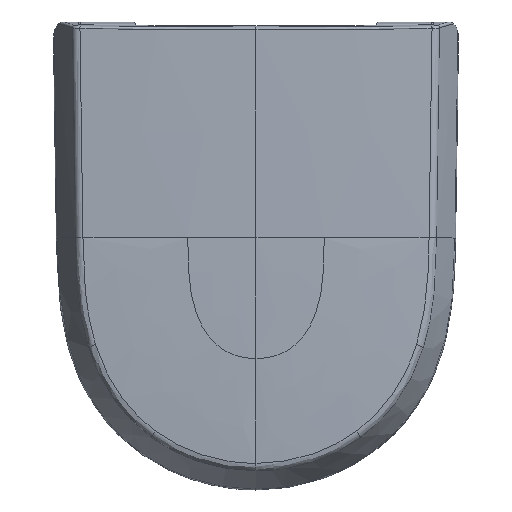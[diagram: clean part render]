
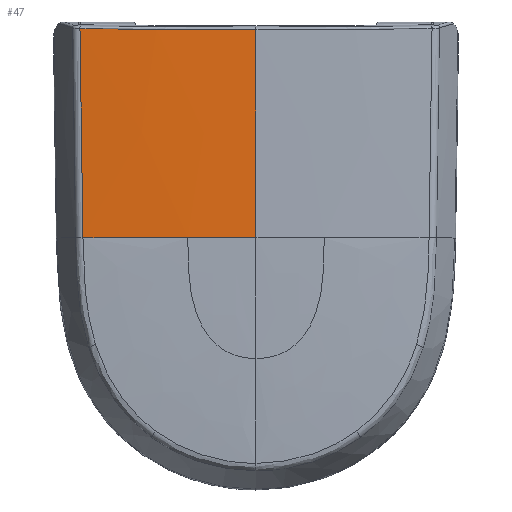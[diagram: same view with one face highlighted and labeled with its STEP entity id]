
A CAD part, top view. The second image highlights one B-rep face of the part: STEP entity #47.
In plain terms, the highlighted free-form (B-spline) face has degree [3, 2] with [4, 3] control points.
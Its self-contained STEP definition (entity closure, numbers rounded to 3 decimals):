
#47=ADVANCED_FACE('',(#577),#7690,.T.);
#577=FACE_OUTER_BOUND('',#1107,.T.);
#1107=EDGE_LOOP('',(#1746,#1747,#1748,#1749,#1750));
#1746=ORIENTED_EDGE('',*,*,#4302,.T.);
#1747=ORIENTED_EDGE('',*,*,#4309,.T.);
#1748=ORIENTED_EDGE('',*,*,#4328,.F.);
#1749=ORIENTED_EDGE('',*,*,#4327,.F.);
#1750=ORIENTED_EDGE('',*,*,#4292,.T.);
#4292=EDGE_CURVE('',#6910,#6911,#5669,.T.);
#4302=EDGE_CURVE('',#6911,#6917,#5679,.T.);
#4309=EDGE_CURVE('',#6917,#6921,#5686,.T.);
#4327=EDGE_CURVE('',#6910,#6932,#5704,.T.);
#4328=EDGE_CURVE('',#6932,#6921,#5705,.T.);
#5669=B_SPLINE_CURVE_WITH_KNOTS('',3,(#12536,#12537,#12538,#12539),
 .UNSPECIFIED.,.F.,.F.,(4,4),(-19.008,0.),
 .UNSPECIFIED.);
#5679=B_SPLINE_CURVE_WITH_KNOTS('',3,(#12600,#12601,#12602,#12603),
 .UNSPECIFIED.,.F.,.F.,(4,4),(-0.557,0.),.UNSPECIFIED.);
#5686=B_SPLINE_CURVE_WITH_KNOTS('',3,(#12653,#12654,#12655,#12656),
 .UNSPECIFIED.,.F.,.F.,(4,4),(-0.414,0.),.UNSPECIFIED.);
#5704=B_SPLINE_CURVE_WITH_KNOTS('',6,(#12753,#12754,#12755,#12756,#12757,
#12758,#12759),.UNSPECIFIED.,.F.,.F.,(7,7),(-16.127,0.),
 .UNSPECIFIED.);
#5705=B_SPLINE_CURVE_WITH_KNOTS('',2,(#12760,#12761,#12762),
 .UNSPECIFIED.,.F.,.F.,(3,3),(-0.827,0.),.UNSPECIFIED.);
#6910=VERTEX_POINT('',#12025);
#6911=VERTEX_POINT('',#12026);
#6917=VERTEX_POINT('',#12032);
#6921=VERTEX_POINT('',#12036);
#6932=VERTEX_POINT('',#12047);
#7690=B_SPLINE_SURFACE_WITH_KNOTS('',3,2,((#9214,#9215,#9216),(#9217,#9218,
#9219),(#9220,#9221,#9222),(#9223,#9224,#9225)),.UNSPECIFIED.,.F.,.F.,.F.,
(4,4),(3,3),(0.,165.382),(0.,233.759),.UNSPECIFIED.);
#9214=CARTESIAN_POINT('',(0.101,243.761,46.398));
#9215=CARTESIAN_POINT('',(0.101,129.438,46.398));
#9216=CARTESIAN_POINT('',(0.101,15.115,46.398));
#9217=CARTESIAN_POINT('',(-40.886,245.024,46.398));
#9218=CARTESIAN_POINT('',(-40.585,130.069,46.398));
#9219=CARTESIAN_POINT('',(-40.101,15.114,46.398));
#9220=CARTESIAN_POINT('',(-113.182,247.25,45.82));
#9221=CARTESIAN_POINT('',(-112.349,131.182,45.82));
#9222=CARTESIAN_POINT('',(-111.011,15.114,45.82));
#9223=CARTESIAN_POINT('',(-165.053,248.851,41.898));
#9224=CARTESIAN_POINT('',(-163.836,131.982,41.898));
#9225=CARTESIAN_POINT('',(-161.883,15.115,41.898));
#12025=CARTESIAN_POINT('',(-160.024,205.178,42.231));
#12026=CARTESIAN_POINT('',(-157.335,15.115,42.236));
#12032=CARTESIAN_POINT('',(-61.95,15.114,45.905));
#12036=CARTESIAN_POINT('',(0.098,15.115,46.398));
#12047=CARTESIAN_POINT('',(0.098,204.273,46.398));
#12536=CARTESIAN_POINT('',(-160.024,205.178,42.231));
#12537=CARTESIAN_POINT('',(-159.29,141.822,42.232));
#12538=CARTESIAN_POINT('',(-158.394,78.467,42.234));
#12539=CARTESIAN_POINT('',(-157.335,15.115,42.236));
#12600=CARTESIAN_POINT('',(-157.335,15.115,42.236));
#12601=CARTESIAN_POINT('',(-128.369,15.114,44.312));
#12602=CARTESIAN_POINT('',(-93.652,15.114,45.376));
#12603=CARTESIAN_POINT('',(-61.95,15.114,45.905));
#12653=CARTESIAN_POINT('',(-61.95,15.114,45.905));
#12654=CARTESIAN_POINT('',(-38.408,15.115,46.299));
#12655=CARTESIAN_POINT('',(-16.529,15.115,46.398));
#12656=CARTESIAN_POINT('',(0.098,15.115,46.398));
#12753=CARTESIAN_POINT('',(-160.024,205.178,42.231));
#12754=CARTESIAN_POINT('',(-133.391,204.784,44.11));
#12755=CARTESIAN_POINT('',(-106.694,204.566,45.077));
#12756=CARTESIAN_POINT('',(-80.008,204.406,45.816));
#12757=CARTESIAN_POINT('',(-53.304,204.318,46.194));
#12758=CARTESIAN_POINT('',(-26.603,204.273,46.398));
#12759=CARTESIAN_POINT('',(0.098,204.273,46.398));
#12760=CARTESIAN_POINT('',(0.098,204.273,46.398));
#12761=CARTESIAN_POINT('',(0.098,109.694,46.398));
#12762=CARTESIAN_POINT('',(0.098,15.115,46.398));
